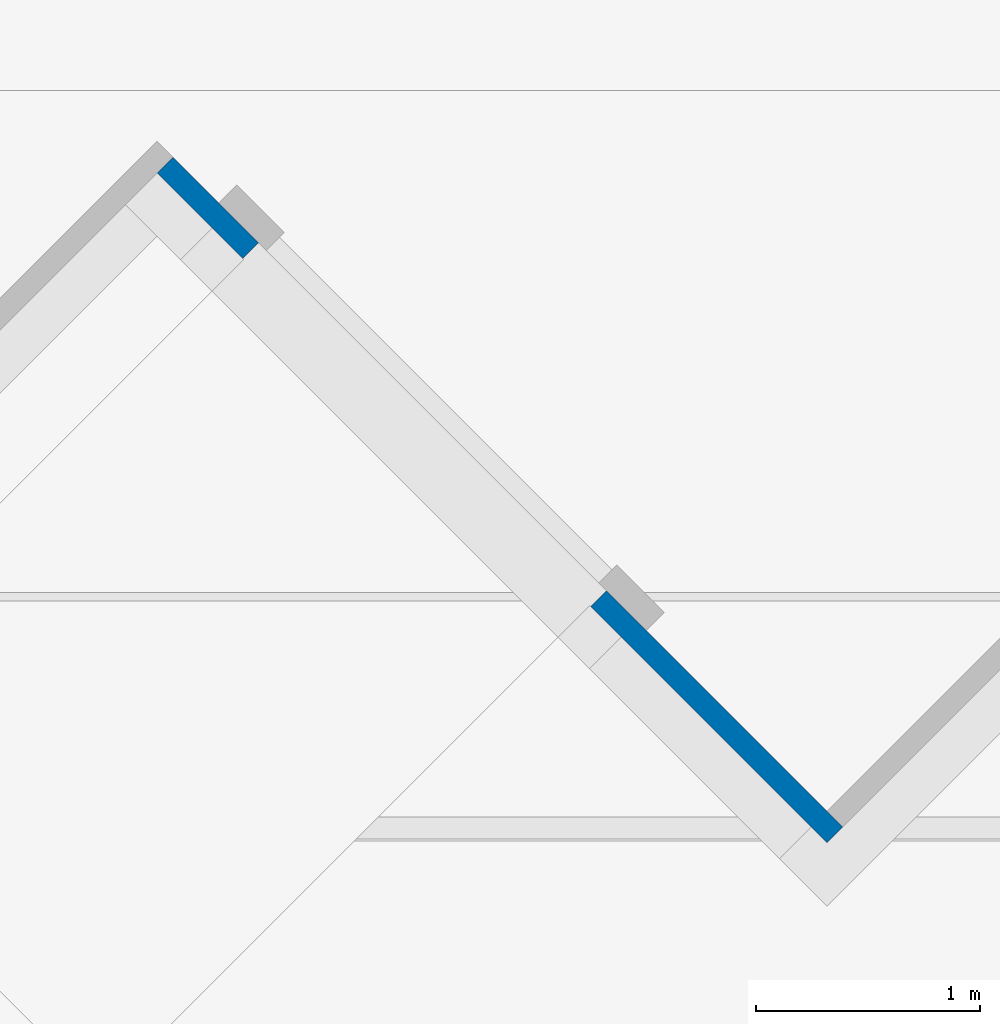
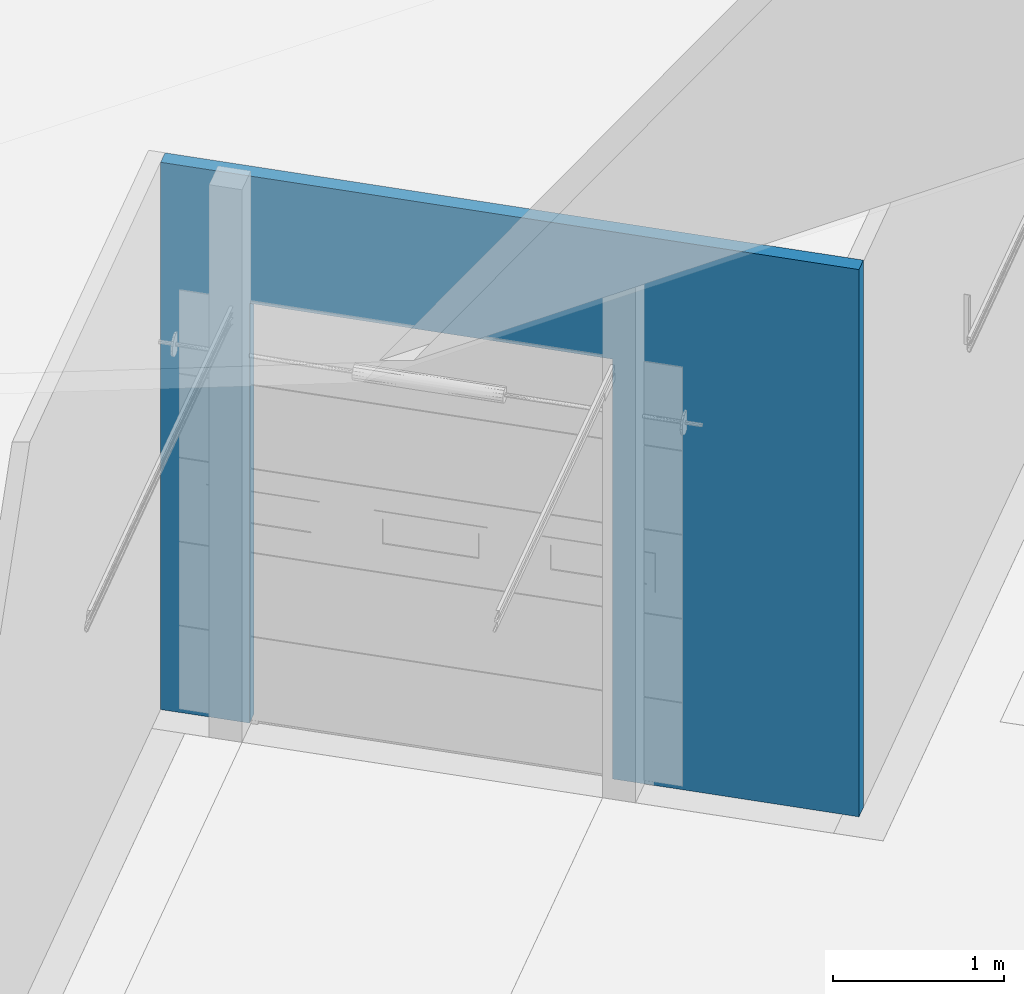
# One storey, part 34 of 64: 1 wall, 1 opening.
"""IFC2X3 building model written with IfcOpenShell, lengths in millimetres."""

from ifc_helpers import new_model, entity, si_unit, converted_unit, derived_unit, direction, frame, frame_2d, origin, place, context, subcontext, project, spatial, rectangle, extrude, material, layer, layer_set, layer_usage, type_object, element, save


model = new_model("IFC2X3")

# Units and contexts
model_context = context("Model", 3, precision=0.01, world=origin(), true_north=direction((4.05803320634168e-15, -1.0)))
body_context = subcontext(model_context, "Body", "Model", "MODEL_VIEW")
ifc_project = project(units=[si_unit("LENGTHUNIT", "METRE", prefix="MILLI"), si_unit("AREAUNIT", "SQUARE_METRE"), si_unit("VOLUMEUNIT", "CUBIC_METRE"), converted_unit("PLANEANGLEUNIT", "DEGREE", entity("IfcRatioMeasure", 0.0174532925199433), si_unit("PLANEANGLEUNIT", "RADIAN"), dimensions=[0, 0, 0, 0, 0, 0, 0]), si_unit("MASSUNIT", "GRAM", prefix="KILO"), derived_unit("MASSDENSITYUNIT", [(si_unit("MASSUNIT", "GRAM", prefix="KILO"), 1), (si_unit("LENGTHUNIT", "METRE"), -3)]), si_unit("TIMEUNIT", "SECOND"), si_unit("FREQUENCYUNIT", "HERTZ"), si_unit("THERMODYNAMICTEMPERATUREUNIT", "DEGREE_CELSIUS"), derived_unit("THERMALTRANSMITTANCEUNIT", [(si_unit("MASSUNIT", "GRAM", prefix="KILO"), 1), (si_unit("THERMODYNAMICTEMPERATUREUNIT", "KELVIN"), -1), (si_unit("TIMEUNIT", "SECOND"), -3)]), derived_unit("VOLUMETRICFLOWRATEUNIT", [(si_unit("LENGTHUNIT", "METRE"), 3), (si_unit("TIMEUNIT", "SECOND"), -1)]), si_unit("ELECTRICCURRENTUNIT", "AMPERE"), si_unit("ELECTRICVOLTAGEUNIT", "VOLT"), si_unit("POWERUNIT", "WATT"), si_unit("FORCEUNIT", "NEWTON", prefix="KILO"), si_unit("ILLUMINANCEUNIT", "LUX"), si_unit("LUMINOUSFLUXUNIT", "LUMEN"), si_unit("LUMINOUSINTENSITYUNIT", "CANDELA"), derived_unit("USERDEFINED", [(si_unit("MASSUNIT", "GRAM", prefix="KILO"), -1), (si_unit("LENGTHUNIT", "METRE"), -2), (si_unit("TIMEUNIT", "SECOND"), 3), (si_unit("LUMINOUSFLUXUNIT", "LUMEN"), 1)]), derived_unit("LINEARVELOCITYUNIT", [(si_unit("LENGTHUNIT", "METRE"), 1), (si_unit("TIMEUNIT", "SECOND"), -1)]), si_unit("PRESSUREUNIT", "PASCAL"), derived_unit("USERDEFINED", [(si_unit("LENGTHUNIT", "METRE"), -2), (si_unit("MASSUNIT", "GRAM", prefix="KILO"), 1), (si_unit("TIMEUNIT", "SECOND"), -2)])], contexts=[model_context])

# Site, building, storey
site_placement = place(None, frame((927466.849349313, 583801.882853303, 0.0), z_axis=(0.0, 0.0, 1.0), x_axis=(-1.0, 0.0, 0.0)))
site = spatial("IfcSite", under=ifc_project, at=site_placement, Name="Surface", CompositionType="ELEMENT")
building_placement = place(site_placement, origin())
building = spatial("IfcBuilding", under=site, at=building_placement, CompositionType="ELEMENT")
storey_placement = place(building_placement, frame((0.0, 0.0, 44170.0)))
storey = spatial("IfcBuildingStorey", under=building, at=storey_placement, Name="Ground FFL", CompositionType="ELEMENT", Elevation=44170.0)

# Wall, opening
ifc_material = material(Name="Isopenal")
ifc_layer = layer(ifc_material, 100.0)
ifc_layer_set = layer_set([ifc_layer], Name="Basic Wall:Isopanel")
ifc_layer_usage = layer_usage(ifc_layer_set, "AXIS2", "POSITIVE", -50.0)
wall_type = type_object("IfcWallType", Name="Basic Wall:Isopanel", PredefinedType="STANDARD", material=ifc_layer_set)
wall_placement = place(storey_placement, frame((-81084.4838325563, -30575.5946140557, 0.0), z_axis=(0.0, 0.0, 1.0), x_axis=(0.707106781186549, -0.707106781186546, 0.0)))
wall = element("IfcWallStandardCase", 1, at=wall_placement, inside=storey, type_object=wall_type, material=ifc_layer_usage, Name="Basic Wall:Isopanel", ObjectType="Basic Wall:Isopanel", context=body_context, shape_type="SweptSolid", body=[
    extrude(rectangle(XDim=4232.26267936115, YDim=99.9999999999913, at=frame_2d((2116.13133968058, 8.13571432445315e-13), x_axis=(-1.0, 0.0))), origin(), (0.0, 0.0, 1.0), 3910.35154955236),
])
opening_placement = place(wall_placement, frame((1492.26267936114, -50.0, 0.0)))
element("IfcOpeningElement", 2, at=opening_placement, cuts=wall, Name="6m_Roller Shutter Doors:3000(w) x 3000(h):1", ObjectType="Opening", context=body_context, shape_type="SweptSolid", body=[
    extrude(rectangle(XDim=3000.0, YDim=2200.0, at=frame_2d((1500.0, 1100.0), x_axis=(1.0, 0.0))), frame((0.0, 0.0, 0.0), z_axis=(0.0, 1.0, 0.0), x_axis=(0.0, 0.0, 1.0)), (0.0, 0.0, 1.0), 100.0),
])

save(model, "model.ifc")
